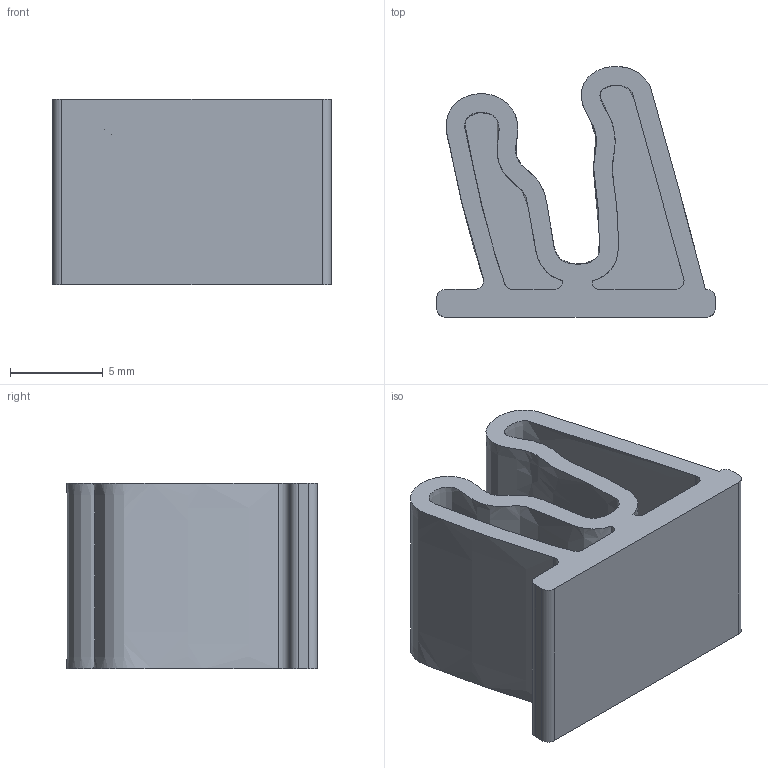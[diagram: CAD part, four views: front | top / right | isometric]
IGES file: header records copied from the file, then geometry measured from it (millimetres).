
Global section: file name: Filename.iges; native system: Open CASCADE 7.9; preprocessor: Open CASCADE IGES processor 7.9; author: root; date: 20261116.152623; units: millimetre
Bounding box: 15 x 13.48 x 10 mm (x, y, z)
Volume: 933 mm3; surface area: 1211.2 mm2
Topology: 1 solids, 1 shells, 25 faces, 63 edges, 42 vertices
Faces by surface type: plane 13, cylinder 6, bspline 3, extrusion 3
